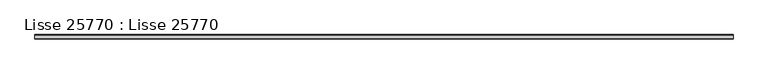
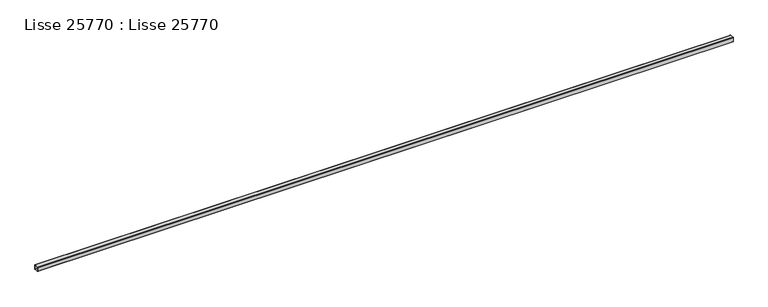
"""IFC4 building model written with IfcOpenShell, lengths in millimetres: beam geometry, Lisse 25770 : Lisse 25770."""

import ifcopenshell
import ifcopenshell.guid

model = None  # the IFC model being written
_history = None  # IfcOwnerHistory: only IFC2X3 demands one
_inside = {}  # id of a spatial element -> (the spatial element, [elements in it])
_under = {}  # id of a project, library or spatial element -> (it, [spatial elements below it])
_declared = {}  # id of a project -> (the project, [libraries it declares])
_typed = {}  # id of a type object -> (the type object, [elements of that type])
_made_of = {}  # id of a material, layer set ... -> (it, [elements and type objects made of it])


def new_model(schema):
    """Start an empty IFC model of exactly this schema.

    Asked for "IFC4X3", IfcOpenShell would pick the latest addendum, in which some entities
    have other attributes; the version numbers below select the first issue.
    IFC2X3 requires an IfcOwnerHistory on every rooted entity: one is made here for all.
    """
    global model, _history
    if schema == "IFC4X3":
        model = ifcopenshell.file(schema_version=(4, 3, 0, 0))
    else:
        model = ifcopenshell.file(schema=schema)
    _inside.clear()
    _under.clear()
    _declared.clear()
    _typed.clear()
    _made_of.clear()
    _history = None
    if model.schema == "IFC2X3":
        org = make("IfcOrganization", Name="unknown")
        user = make(
            "IfcPersonAndOrganization",
            ThePerson=make("IfcPerson", FamilyName="unknown"),
            TheOrganization=org,
        )
        app = make(
            "IfcApplication",
            ApplicationDeveloper=org,
            Version="unknown",
            ApplicationFullName="unknown",
            ApplicationIdentifier="unknown",
        )
        _history = make(
            "IfcOwnerHistory",
            OwningUser=user,
            OwningApplication=app,
            ChangeAction="ADDED",
            CreationDate=0,
        )
    return model


def make(cls, **values):
    """One entity of the class cls with the attributes given. An attribute that is None is left unset."""
    return model.create_entity(
        cls, **{name: value for name, value in values.items() if value is not None}
    )


def rooted(cls, **values):
    """An entity with a GlobalId (a new one), such as an element, a storey or a relation."""
    return make(cls, GlobalId=ifcopenshell.guid.new(), OwnerHistory=_history, **values)


def si_unit(unit_type, name, prefix=None):
    """IfcSIUnit, for example si_unit("LENGTHUNIT", "METRE", prefix="MILLI")."""
    return make("IfcSIUnit", UnitType=unit_type, Prefix=prefix, Name=name)


def assignment(units):
    """IfcUnitAssignment: the units of a project."""
    return None if units is None else make("IfcUnitAssignment", Units=units)


def point(xyz):
    """IfcCartesianPoint."""
    return None if xyz is None else make("IfcCartesianPoint", Coordinates=xyz)


def direction(xyz):
    """IfcDirection."""
    return None if xyz is None else make("IfcDirection", DirectionRatios=xyz)


def frame(location, z_axis=None, x_axis=None):
    """IfcAxis2Placement3D, a coordinate frame: its origin and axes. An axis left out is left unset."""
    return make(
        "IfcAxis2Placement3D",
        Location=point(location),
        Axis=direction(z_axis),
        RefDirection=direction(x_axis),
    )


def origin():
    """The frame at (0, 0, 0) with its axes left unset."""
    return frame((0.0, 0.0, 0.0))


def place(relative_to, where):
    """IfcLocalPlacement: puts the frame where relative to a parent placement (None: the world)."""
    return make(
        "IfcLocalPlacement", PlacementRelTo=relative_to, RelativePlacement=where
    )


def context(
    kind, dimensions, precision=None, world=None, true_north=None, identifier=None
):
    """IfcGeometricRepresentationContext, for example the 3D "Model" context."""
    return make(
        "IfcGeometricRepresentationContext",
        ContextIdentifier=identifier,
        ContextType=kind,
        CoordinateSpaceDimension=dimensions,
        Precision=precision,
        WorldCoordinateSystem=world,
        TrueNorth=true_north,
    )


def project(units=None, contexts=None):
    """IfcProject with its units and contexts."""
    return rooted(
        "IfcProject",
        Name="project",
        RepresentationContexts=contexts,
        UnitsInContext=assignment(units),
    )


def spatial(cls, under=None, at=None, **own):
    """A site, building, storey or space (cls), placed at a placement, below another one or the project."""
    s = rooted(cls, ObjectPlacement=at, **own)
    if under is not None:
        _under.setdefault(under.id(), (under, []))[1].append(s)
    return s


def polyline(points):
    """IfcPolyline through the points."""
    return make("IfcPolyline", Points=[point(p) for p in points])


def outline(outer, holes=None, kind="AREA"):
    """IfcArbitraryClosedProfileDef: a profile drawn as a closed curve; with holes, ...WithVoids."""
    if holes is None:
        return make("IfcArbitraryClosedProfileDef", ProfileType=kind, OuterCurve=outer)
    return make(
        "IfcArbitraryProfileDefWithVoids",
        ProfileType=kind,
        OuterCurve=outer,
        InnerCurves=holes,
    )


def extrude(swept, where, along, depth):
    """IfcExtrudedAreaSolid: the profile swept, set in the frame where, extruded along a direction by depth."""
    return make(
        "IfcExtrudedAreaSolid",
        SweptArea=swept,
        Position=where,
        ExtrudedDirection=direction(along),
        Depth=depth,
    )


def shape(context_of_items, identifier, shape_type, items):
    """IfcShapeRepresentation: the items that make up one representation, for example the "Body"."""
    return make(
        "IfcShapeRepresentation",
        ContextOfItems=context_of_items,
        RepresentationIdentifier=identifier,
        RepresentationType=shape_type,
        Items=items,
    )


def source(mapping_origin, context_of_items, identifier, shape_type, items):
    """IfcRepresentationMap: a shape defined once, which mapped items show again and again."""
    return make(
        "IfcRepresentationMap",
        MappingOrigin=mapping_origin,
        MappedRepresentation=shape(context_of_items, identifier, shape_type, items),
    )


def transform(
    local_origin,
    x_axis=None,
    y_axis=None,
    z_axis=None,
    scale=None,
    scale2=None,
    scale3=None,
    uniform=True,
):
    """IfcCartesianTransformationOperator3D, or its non-uniform kind. x_axis, y_axis, z_axis: its Axis1, 2, 3."""
    if uniform:
        return make(
            "IfcCartesianTransformationOperator3D",
            Axis1=direction(x_axis),
            Axis2=direction(y_axis),
            LocalOrigin=point(local_origin),
            Scale=scale,
            Axis3=direction(z_axis),
        )
    return make(
        "IfcCartesianTransformationOperator3DnonUniform",
        Axis1=direction(x_axis),
        Axis2=direction(y_axis),
        LocalOrigin=point(local_origin),
        Scale=scale,
        Axis3=direction(z_axis),
        Scale2=scale2,
        Scale3=scale3,
    )


def mapped(mapping_source, mapping_target):
    """IfcMappedItem: shows the shape of a source again, moved by a transform."""
    return make(
        "IfcMappedItem", MappingSource=mapping_source, MappingTarget=mapping_target
    )


def made_of(thing, what):
    """Note that an element or type object is made of a material, layer set ...; save() writes the relation."""
    if what is not None:
        _made_of.setdefault(what.id(), (what, []))[1].append(thing)
    return thing


def element(
    cls,
    number,
    at=None,
    inside=None,
    cuts=None,
    type_object=None,
    material=None,
    context=None,
    identifier="Body",
    shape_type=None,
    held_by="IfcProductDefinitionShape",
    body=None,
    shapes=None,
    **own,
):
    """One element of the class cls, such as IfcWall. Its Tag is "e" and its number.

    at: its placement. inside: the storey or other place that contains it. cuts: it is an
    opening in that element (IfcRelVoidsElement). A single representation is given by context,
    identifier, shape_type and body (its items); several are given by shapes. held_by: the class
    of the entity that holds the representations. save() writes the other relations.
    """
    e = rooted(cls, Tag="e%d" % number, ObjectPlacement=at, **own)
    if body is not None:
        shapes = [shape(context, identifier, shape_type, body)]
    if shapes is not None:
        e.Representation = make(held_by, Representations=shapes)
    if inside is not None:
        _inside.setdefault(inside.id(), (inside, []))[1].append(e)
    if cuts is not None:
        rooted(
            "IfcRelVoidsElement", RelatingBuildingElement=cuts, RelatedOpeningElement=e
        )
    if type_object is not None:
        _typed.setdefault(type_object.id(), (type_object, []))[1].append(e)
    return made_of(e, material)


def aggregate(whole, parts):
    """IfcRelAggregates: a whole, such as a stair, and the parts it consists of."""
    return rooted("IfcRelAggregates", RelatingObject=whole, RelatedObjects=parts)


def save(model, path):
    """Write the relations noted so far, then the file.

    IfcRelAggregates (storeys below a building ...), IfcRelContainedInSpatialStructure (elements
    in a storey), IfcRelDefinesByType, IfcRelAssociatesMaterial and IfcRelDeclares: one each for
    every whole, place, type object, material and project.
    """
    for whole, parts in _under.values():
        aggregate(whole, parts)
    for where, things in _inside.values():
        rooted(
            "IfcRelContainedInSpatialStructure",
            RelatedElements=things,
            RelatingStructure=where,
        )
    for kind, things in _typed.values():
        rooted("IfcRelDefinesByType", RelatedObjects=things, RelatingType=kind)
    for what, things in _made_of.values():
        rooted("IfcRelAssociatesMaterial", RelatedObjects=things, RelatingMaterial=what)
    for by, libraries in _declared.values():
        rooted("IfcRelDeclares", RelatingContext=by, RelatedDefinitions=libraries)
    model.write(path)


def lisse_25770_lisse_25770_3b2614e6(model_context):
    return source(origin(), model_context, "Body", "SweptSolid", [
        extrude(outline(polyline([(-34327.5, 8550.0), (-34239.5, 8550.0), (-34236.5, 8549.1961524), (-34234.3038476, 8547.0), (-34233.5, 8544.0), (-34233.5, 8456.0), (-34234.3038476, 8453.0), (-34236.5, 8450.8038476), (-34239.5, 8450.0), (-34327.5, 8450.0), (-34330.5, 8450.8038476), (-34332.6961524, 8453.0), (-34333.5, 8456.0), (-34333.5, 8544.0), (-34332.6961524, 8547.0), (-34330.5, 8549.1961524), (-34327.5, 8550.0)]), holes=[polyline([(-34241.5, 8454.0), (-34239.5, 8454.5358984), (-34238.0358984, 8456.0), (-34237.5, 8458.0), (-34237.5, 8542.0), (-34238.0358984, 8544.0), (-34239.5, 8545.4641016), (-34241.5, 8546.0), (-34325.5, 8546.0), (-34327.5, 8545.4641016), (-34328.9641016, 8544.0), (-34329.5, 8542.0), (-34329.5, 8458.0), (-34328.9641016, 8456.0), (-34327.5, 8454.5358984), (-34325.5, 8454.0), (-34241.5, 8454.0)])]), frame((-40.0000001, 0.0, 0.0), z_axis=(1.0, 0.0, 0.0), x_axis=(0.0, 1.0, 0.0)), (0.0, 0.0, 1.0), 15430.0),
    ])


if __name__ == "__main__":
    model = new_model("IFC4")
    model_context = context("Model", 3, world=origin())
    ifc_project = project(units=[si_unit("LENGTHUNIT", "METRE", prefix="MILLI")], contexts=[model_context])
    site = spatial("IfcSite", under=ifc_project)
    building = spatial("IfcBuilding", under=site)
    placement = place(None, origin())
    lisse_25770_lisse_25770_shape = lisse_25770_lisse_25770_3b2614e6(model_context)
    element("IfcBeam", 1, ObjectType="Lisse 25770 : Lisse 25770", at=placement, inside=building, context=model_context, shape_type="MappedRepresentation", body=[
        mapped(lisse_25770_lisse_25770_shape, transform((0.0, 0.0, 0.0), x_axis=(1.0, 0.0, 0.0), y_axis=(0.0, 1.0, 0.0), z_axis=(0.0, 0.0, 1.0))),
    ])
    save(model, "model.ifc")
